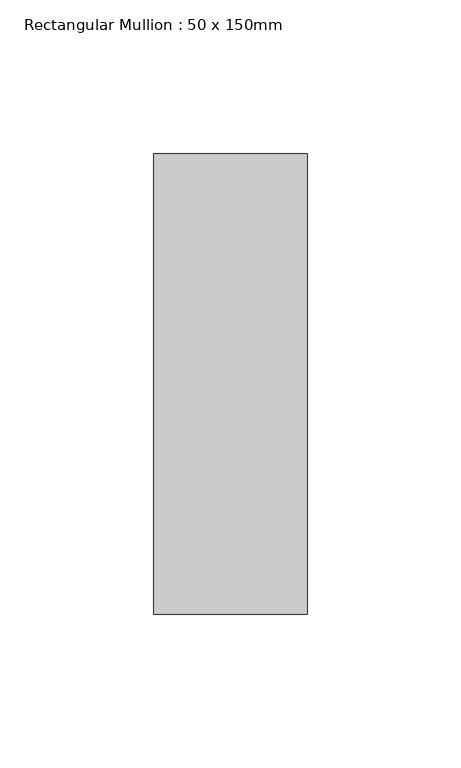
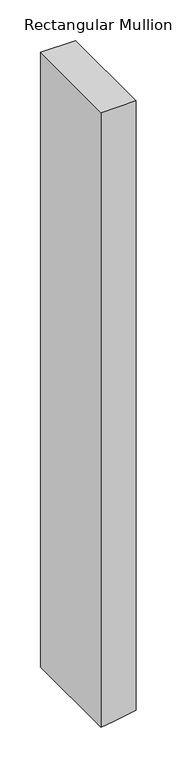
"""IFC4 building model written with IfcOpenShell, lengths in millimetres: member geometry, Rectangular Mullion : 50 x 150mm."""

from ifc_helpers import new_model, si_unit, frame, origin, place, context, project, spatial, polyline, outline, extrude, source, transform, mapped, element, save


def rectangular_mullion_50_x_150mm_8495d914(model_context):
    return source(origin(), model_context, "Body", "SweptSolid", [
        extrude(outline(polyline([(0.0, 25.0), (0.0, -25.0), (-925.5943819, -25.0), (-922.7379582, -8.2302168), (-917.3070896, 25.0), (0.0, 25.0)])), frame((0.0, -75.0, 0.0), z_axis=(0.0, 1.0, 0.0), x_axis=(0.0, 0.0, 1.0)), (0.0, 0.0, 1.0), 150.0),
    ])


if __name__ == "__main__":
    model = new_model("IFC4")
    model_context = context("Model", 3, world=origin())
    ifc_project = project(units=[si_unit("LENGTHUNIT", "METRE", prefix="MILLI")], contexts=[model_context])
    site = spatial("IfcSite", under=ifc_project)
    building = spatial("IfcBuilding", under=site)
    placement = place(None, origin())
    rectangular_mullion_50_x_150mm_shape = rectangular_mullion_50_x_150mm_8495d914(model_context)
    element("IfcMember", 1, ObjectType="Rectangular Mullion : 50 x 150mm", at=placement, inside=building, context=model_context, shape_type="MappedRepresentation", body=[
        mapped(rectangular_mullion_50_x_150mm_shape, transform((0.0, 0.0, 0.0), x_axis=(1.0, 0.0, 0.0), y_axis=(0.0, 1.0, 0.0), z_axis=(0.0, 0.0, 1.0))),
    ])
    save(model, "model.ifc")
